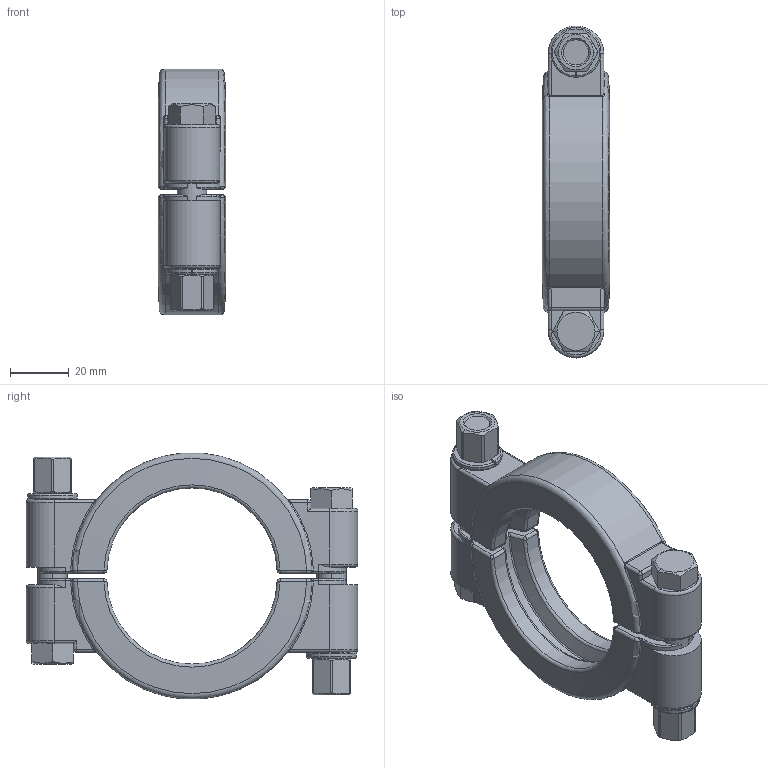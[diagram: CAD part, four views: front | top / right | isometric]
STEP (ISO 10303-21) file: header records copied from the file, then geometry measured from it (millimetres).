
FILE_DESCRIPTION((''),'2;1');
FILE_NAME('74214043800_ASM','2020-02-21T14:02:37',('alfio.taboni'),('CDM Tecnoconsulting'),'CREO PARAMETRIC BY PTC INC, 2019344','CREO PARAMETRIC BY PTC INC, 2019344','');
FILE_SCHEMA(('CONFIG_CONTROL_DESIGN','SHAPE_APPEARANCE_LAYERS_GROUPS'));
Length unit declared in the file: millimetre
Products named in the file (5): 74220063900; M10X70; ROND_10X17X2GROWER; DADO_M10X13OT58; 74214043800_ASM
Assembly tree (8 placements, depth 2):
  74214043800_ASM
    74220063900  x2
    M10X70  x2
    ROND_10X17X2GROWER  x2
    DADO_M10X13OT58  x2
Bounding box: 22.93 x 113 x 83.76 mm (x, y, z)
Volume: 86550.3 mm3; surface area: 32606.3 mm2
Topology: 8 solids, 8 shells, 530 faces, 1314 edges, 822 vertices
Faces by surface type: plane 192, cylinder 98, extrusion 74, bspline 72, torus 42, cone 32, sphere 20
Entity records: 10329 total; most frequent: CARTESIAN_POINT 4351, ORIENTED_EDGE 1314, DIRECTION 1041, EDGE_CURVE 657, VERTEX_POINT 411, AXIS2_PLACEMENT_3D 379, VECTOR 283, EDGE_LOOP 282
